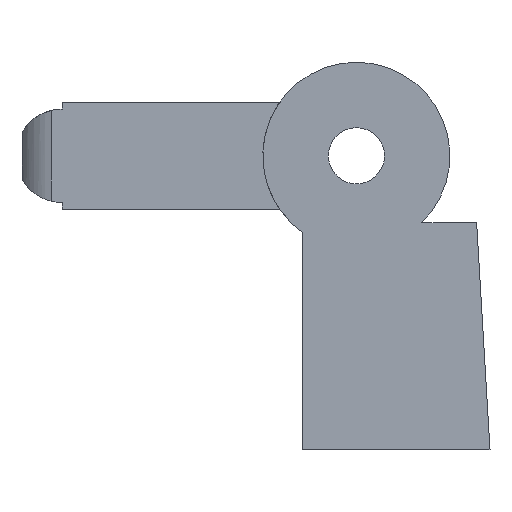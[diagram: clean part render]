
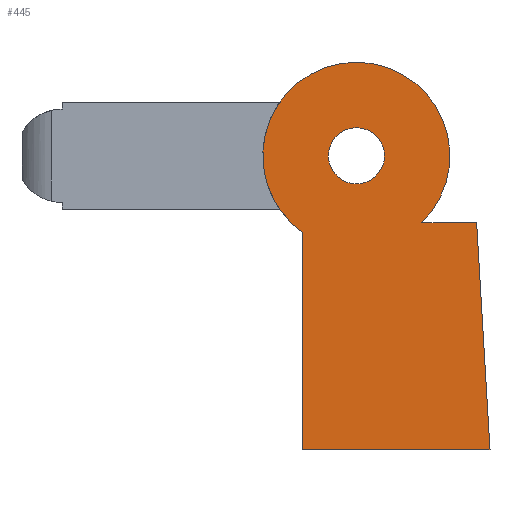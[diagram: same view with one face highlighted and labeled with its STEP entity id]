
A CAD part, front view. The second image highlights one B-rep face of the part: STEP entity #445.
In plain terms, the highlighted planar face has unit normal (0, -1, 0).
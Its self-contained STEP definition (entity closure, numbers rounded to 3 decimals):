
#33 = CYLINDRICAL_SURFACE('',#34,7.);
#34 = AXIS2_PLACEMENT_3D('',#35,#36,#37);
#35 = CARTESIAN_POINT('',(0.,-7.,0.));
#36 = DIRECTION('',(0.,-1.,-0.));
#37 = DIRECTION('',(1.,0.,0.));
#62 = VERTEX_POINT('',#63);
#63 = CARTESIAN_POINT('',(4.899,-7.,-5.));
#76 = PLANE('',#77);
#77 = AXIS2_PLACEMENT_3D('',#78,#79,#80);
#78 = CARTESIAN_POINT('',(-3.997,-7.,-5.));
#79 = DIRECTION('',(0.,0.,-1.));
#80 = DIRECTION('',(1.,0.,0.));
#87 = EDGE_CURVE('',#88,#62,#90,.T.);
#88 = VERTEX_POINT('',#89);
#89 = CARTESIAN_POINT('',(-3.997,-7.,-5.746));
#90 = SURFACE_CURVE('',#91,(#96,#103),.PCURVE_S1.);
#91 = CIRCLE('',#92,7.);
#92 = AXIS2_PLACEMENT_3D('',#93,#94,#95);
#93 = CARTESIAN_POINT('',(0.,-7.,0.));
#94 = DIRECTION('',(0.,1.,0.));
#95 = DIRECTION('',(-0.571,0.,-0.821));
#96 = PCURVE('',#33,#97);
#97 = DEFINITIONAL_REPRESENTATION('',(#98),#102);
#98 = LINE('',#99,#100);
#99 = CARTESIAN_POINT('',(-2.179,0.));
#100 = VECTOR('',#101,1.);
#101 = DIRECTION('',(-1.,0.));
#102 = ( GEOMETRIC_REPRESENTATION_CONTEXT(2) 
PARAMETRIC_REPRESENTATION_CONTEXT() REPRESENTATION_CONTEXT('2D SPACE',''
  ) );
#103 = PCURVE('',#104,#109);
#104 = PLANE('',#105);
#105 = AXIS2_PLACEMENT_3D('',#106,#107,#108);
#106 = CARTESIAN_POINT('',(0.,-7.,0.)
  );
#107 = DIRECTION('',(0.,1.,0.));
#108 = DIRECTION('',(0.,-0.,1.));
#109 = DEFINITIONAL_REPRESENTATION('',(#110),#114);
#110 = CIRCLE('',#111,7.);
#111 = AXIS2_PLACEMENT_2D('',#112,#113);
#112 = CARTESIAN_POINT('',(0.,0.));
#113 = DIRECTION('',(-0.821,-0.571));
#114 = ( GEOMETRIC_REPRESENTATION_CONTEXT(2) 
PARAMETRIC_REPRESENTATION_CONTEXT() REPRESENTATION_CONTEXT('2D SPACE',''
  ) );
#129 = PLANE('',#130);
#130 = AXIS2_PLACEMENT_3D('',#131,#132,#133);
#131 = CARTESIAN_POINT('',(-3.997,-7.,-22.));
#132 = DIRECTION('',(1.,0.,-0.));
#133 = DIRECTION('',(0.,0.,1.));
#301 = PLANE('',#302);
#302 = AXIS2_PLACEMENT_3D('',#303,#304,#305);
#303 = CARTESIAN_POINT('',(9.,-7.,-5.));
#304 = DIRECTION('',(-0.998,-0.,-0.059));
#305 = DIRECTION('',(0.059,0.,-0.998));
#329 = PLANE('',#330);
#330 = AXIS2_PLACEMENT_3D('',#331,#332,#333);
#331 = CARTESIAN_POINT('',(10.,-7.,-22.));
#332 = DIRECTION('',(0.,0.,1.));
#333 = DIRECTION('',(-1.,0.,0.));
#385 = CYLINDRICAL_SURFACE('',#386,2.1);
#386 = AXIS2_PLACEMENT_3D('',#387,#388,#389);
#387 = CARTESIAN_POINT('',(0.,-10.,0.));
#388 = DIRECTION('',(0.,-1.,-0.));
#389 = DIRECTION('',(1.,0.,0.));
#400 = EDGE_CURVE('',#62,#401,#403,.T.);
#401 = VERTEX_POINT('',#402);
#402 = CARTESIAN_POINT('',(9.,-7.,-5.));
#403 = SURFACE_CURVE('',#404,(#408,#415),.PCURVE_S1.);
#404 = LINE('',#405,#406);
#405 = CARTESIAN_POINT('',(-3.997,-7.,-5.));
#406 = VECTOR('',#407,1.);
#407 = DIRECTION('',(1.,0.,0.));
#408 = PCURVE('',#76,#409);
#409 = DEFINITIONAL_REPRESENTATION('',(#410),#414);
#410 = LINE('',#411,#412);
#411 = CARTESIAN_POINT('',(0.,0.));
#412 = VECTOR('',#413,1.);
#413 = DIRECTION('',(1.,0.));
#414 = ( GEOMETRIC_REPRESENTATION_CONTEXT(2) 
PARAMETRIC_REPRESENTATION_CONTEXT() REPRESENTATION_CONTEXT('2D SPACE',''
  ) );
#415 = PCURVE('',#104,#416);
#416 = DEFINITIONAL_REPRESENTATION('',(#417),#421);
#417 = LINE('',#418,#419);
#418 = CARTESIAN_POINT('',(-5.,-3.997));
#419 = VECTOR('',#420,1.);
#420 = DIRECTION('',(0.,1.));
#421 = ( GEOMETRIC_REPRESENTATION_CONTEXT(2) 
PARAMETRIC_REPRESENTATION_CONTEXT() REPRESENTATION_CONTEXT('2D SPACE',''
  ) );
#445 = ADVANCED_FACE('',(#446,#517),#104,.F.);
#446 = FACE_BOUND('',#447,.F.);
#447 = EDGE_LOOP('',(#448,#449,#450,#473,#496));
#448 = ORIENTED_EDGE('',*,*,#87,.T.);
#449 = ORIENTED_EDGE('',*,*,#400,.T.);
#450 = ORIENTED_EDGE('',*,*,#451,.T.);
#451 = EDGE_CURVE('',#401,#452,#454,.T.);
#452 = VERTEX_POINT('',#453);
#453 = CARTESIAN_POINT('',(10.,-7.,-22.));
#454 = SURFACE_CURVE('',#455,(#459,#466),.PCURVE_S1.);
#455 = LINE('',#456,#457);
#456 = CARTESIAN_POINT('',(9.,-7.,-5.));
#457 = VECTOR('',#458,1.);
#458 = DIRECTION('',(0.059,0.,-0.998));
#459 = PCURVE('',#104,#460);
#460 = DEFINITIONAL_REPRESENTATION('',(#461),#465);
#461 = LINE('',#462,#463);
#462 = CARTESIAN_POINT('',(-5.,9.));
#463 = VECTOR('',#464,1.);
#464 = DIRECTION('',(-0.998,0.059));
#465 = ( GEOMETRIC_REPRESENTATION_CONTEXT(2) 
PARAMETRIC_REPRESENTATION_CONTEXT() REPRESENTATION_CONTEXT('2D SPACE',''
  ) );
#466 = PCURVE('',#301,#467);
#467 = DEFINITIONAL_REPRESENTATION('',(#468),#472);
#468 = LINE('',#469,#470);
#469 = CARTESIAN_POINT('',(0.,0.));
#470 = VECTOR('',#471,1.);
#471 = DIRECTION('',(1.,0.));
#472 = ( GEOMETRIC_REPRESENTATION_CONTEXT(2) 
PARAMETRIC_REPRESENTATION_CONTEXT() REPRESENTATION_CONTEXT('2D SPACE',''
  ) );
#473 = ORIENTED_EDGE('',*,*,#474,.T.);
#474 = EDGE_CURVE('',#452,#475,#477,.T.);
#475 = VERTEX_POINT('',#476);
#476 = CARTESIAN_POINT('',(-3.997,-7.,-22.));
#477 = SURFACE_CURVE('',#478,(#482,#489),.PCURVE_S1.);
#478 = LINE('',#479,#480);
#479 = CARTESIAN_POINT('',(10.,-7.,-22.));
#480 = VECTOR('',#481,1.);
#481 = DIRECTION('',(-1.,0.,0.));
#482 = PCURVE('',#104,#483);
#483 = DEFINITIONAL_REPRESENTATION('',(#484),#488);
#484 = LINE('',#485,#486);
#485 = CARTESIAN_POINT('',(-22.,10.));
#486 = VECTOR('',#487,1.);
#487 = DIRECTION('',(0.,-1.));
#488 = ( GEOMETRIC_REPRESENTATION_CONTEXT(2) 
PARAMETRIC_REPRESENTATION_CONTEXT() REPRESENTATION_CONTEXT('2D SPACE',''
  ) );
#489 = PCURVE('',#329,#490);
#490 = DEFINITIONAL_REPRESENTATION('',(#491),#495);
#491 = LINE('',#492,#493);
#492 = CARTESIAN_POINT('',(0.,0.));
#493 = VECTOR('',#494,1.);
#494 = DIRECTION('',(1.,0.));
#495 = ( GEOMETRIC_REPRESENTATION_CONTEXT(2) 
PARAMETRIC_REPRESENTATION_CONTEXT() REPRESENTATION_CONTEXT('2D SPACE',''
  ) );
#496 = ORIENTED_EDGE('',*,*,#497,.T.);
#497 = EDGE_CURVE('',#475,#88,#498,.T.);
#498 = SURFACE_CURVE('',#499,(#503,#510),.PCURVE_S1.);
#499 = LINE('',#500,#501);
#500 = CARTESIAN_POINT('',(-3.997,-7.,-22.));
#501 = VECTOR('',#502,1.);
#502 = DIRECTION('',(0.,0.,1.));
#503 = PCURVE('',#104,#504);
#504 = DEFINITIONAL_REPRESENTATION('',(#505),#509);
#505 = LINE('',#506,#507);
#506 = CARTESIAN_POINT('',(-22.,-3.997));
#507 = VECTOR('',#508,1.);
#508 = DIRECTION('',(1.,0.));
#509 = ( GEOMETRIC_REPRESENTATION_CONTEXT(2) 
PARAMETRIC_REPRESENTATION_CONTEXT() REPRESENTATION_CONTEXT('2D SPACE',''
  ) );
#510 = PCURVE('',#129,#511);
#511 = DEFINITIONAL_REPRESENTATION('',(#512),#516);
#512 = LINE('',#513,#514);
#513 = CARTESIAN_POINT('',(0.,0.));
#514 = VECTOR('',#515,1.);
#515 = DIRECTION('',(1.,0.));
#516 = ( GEOMETRIC_REPRESENTATION_CONTEXT(2) 
PARAMETRIC_REPRESENTATION_CONTEXT() REPRESENTATION_CONTEXT('2D SPACE',''
  ) );
#517 = FACE_BOUND('',#518,.F.);
#518 = EDGE_LOOP('',(#519));
#519 = ORIENTED_EDGE('',*,*,#520,.T.);
#520 = EDGE_CURVE('',#521,#521,#523,.T.);
#521 = VERTEX_POINT('',#522);
#522 = CARTESIAN_POINT('',(2.1,-7.,0.));
#523 = SURFACE_CURVE('',#524,(#529,#540),.PCURVE_S1.);
#524 = CIRCLE('',#525,2.1);
#525 = AXIS2_PLACEMENT_3D('',#526,#527,#528);
#526 = CARTESIAN_POINT('',(0.,-7.,0.));
#527 = DIRECTION('',(0.,-1.,-0.));
#528 = DIRECTION('',(1.,0.,0.));
#529 = PCURVE('',#104,#530);
#530 = DEFINITIONAL_REPRESENTATION('',(#531),#539);
#531 = ( BOUNDED_CURVE() B_SPLINE_CURVE(2,(#532,#533,#534,#535,#536,#537
,#538),.UNSPECIFIED.,.T.,.F.) B_SPLINE_CURVE_WITH_KNOTS((1,2,2,2,2,1),(
    -2.094,0.,2.094,4.189,6.283,
8.378),.UNSPECIFIED.) CURVE() GEOMETRIC_REPRESENTATION_ITEM() 
RATIONAL_B_SPLINE_CURVE((1.,0.5,1.,0.5,1.,0.5,1.)) REPRESENTATION_ITEM(
  '') );
#532 = CARTESIAN_POINT('',(0.,2.1));
#533 = CARTESIAN_POINT('',(3.637,2.1));
#534 = CARTESIAN_POINT('',(1.819,-1.05));
#535 = CARTESIAN_POINT('',(0.,-4.2));
#536 = CARTESIAN_POINT('',(-1.819,-1.05));
#537 = CARTESIAN_POINT('',(-3.637,2.1));
#538 = CARTESIAN_POINT('',(0.,2.1));
#539 = ( GEOMETRIC_REPRESENTATION_CONTEXT(2) 
PARAMETRIC_REPRESENTATION_CONTEXT() REPRESENTATION_CONTEXT('2D SPACE',''
  ) );
#540 = PCURVE('',#385,#541);
#541 = DEFINITIONAL_REPRESENTATION('',(#542),#546);
#542 = LINE('',#543,#544);
#543 = CARTESIAN_POINT('',(-6.283,-3.));
#544 = VECTOR('',#545,1.);
#545 = DIRECTION('',(1.,-0.));
#546 = ( GEOMETRIC_REPRESENTATION_CONTEXT(2) 
PARAMETRIC_REPRESENTATION_CONTEXT() REPRESENTATION_CONTEXT('2D SPACE',''
  ) );
